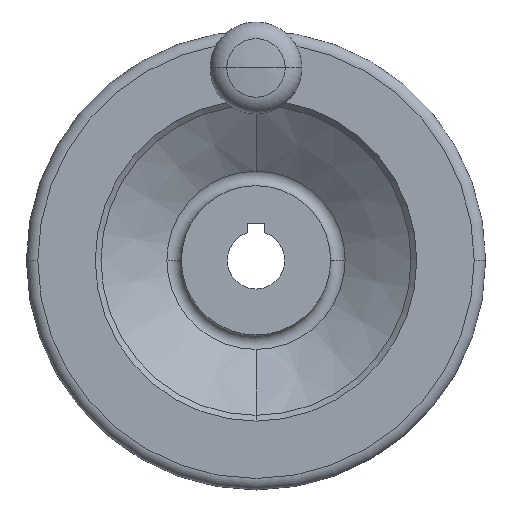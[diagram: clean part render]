
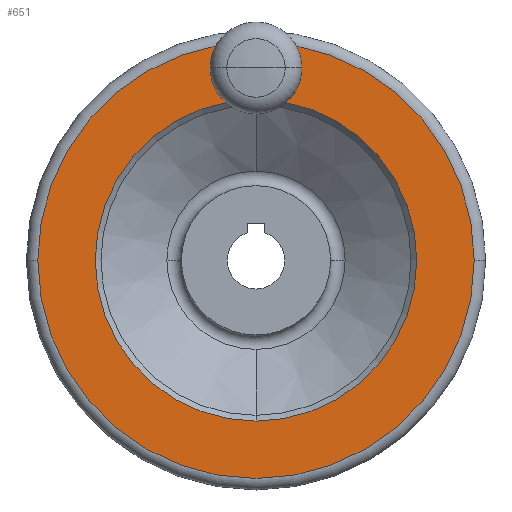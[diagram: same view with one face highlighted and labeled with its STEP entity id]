
A CAD part, left-side view. The second image highlights one B-rep face of the part: STEP entity #651.
In plain terms, the highlighted planar face has unit normal (-1, 0, 0).
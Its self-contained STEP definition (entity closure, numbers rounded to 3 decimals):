
#2 = VERTEX_POINT ( 'NONE', #2052 ) ;
#30 = CARTESIAN_POINT ( 'NONE',  ( -70., 25., -2. ) ) ;
#38 = EDGE_CURVE ( 'NONE', #1236, #1340, #2041, .T. ) ;
#39 = ORIENTED_EDGE ( 'NONE', *, *, #2069, .T. ) ;
#72 = ORIENTED_EDGE ( 'NONE', *, *, #38, .T. ) ;
#93 = DIRECTION ( 'NONE',  ( 0., -1., 0. ) ) ;
#104 = AXIS2_PLACEMENT_3D ( 'NONE', #30, #1046, #1055 ) ;
#134 = CARTESIAN_POINT ( 'NONE',  ( -70., 28., 31.5 ) ) ;
#137 = ORIENTED_EDGE ( 'NONE', *, *, #431, .F. ) ;
#141 = DIRECTION ( 'NONE',  ( 0., 0., 1. ) ) ;
#164 = PLANE ( 'NONE',  #1296 ) ;
#167 = CARTESIAN_POINT ( 'NONE',  ( -70., 25., 31.5 ) ) ;
#244 = EDGE_CURVE ( 'NONE', #2, #258, #1604, .T. ) ;
#258 = VERTEX_POINT ( 'NONE', #545 ) ;
#346 = DIRECTION ( 'NONE',  ( -1., 0., 0. ) ) ;
#431 = EDGE_CURVE ( 'NONE', #258, #2, #1587, .T. ) ;
#487 = FACE_BOUND ( 'NONE', #1030, .T. ) ;
#499 = FACE_BOUND ( 'NONE', #1774, .T. ) ;
#545 = CARTESIAN_POINT ( 'NONE',  ( -70., 25., -30. ) ) ;
#616 = VERTEX_POINT ( 'NONE', #1187 ) ;
#633 = CIRCLE ( 'NONE', #2160, 38. ) ;
#651 = ADVANCED_FACE ( 'NONE', ( #487, #499, #1857 ), #164, .T. ) ;
#792 = DIRECTION ( 'NONE',  ( 1., 0., 0. ) ) ;
#868 = AXIS2_PLACEMENT_3D ( 'NONE', #167, #1625, #93 ) ;
#952 = CARTESIAN_POINT ( 'NONE',  ( -70., 22., 31.5 ) ) ;
#1005 = CARTESIAN_POINT ( 'NONE',  ( -70., 25., -2. ) ) ;
#1008 = CARTESIAN_POINT ( 'NONE',  ( -70., -13., -2. ) ) ;
#1030 = EDGE_LOOP ( 'NONE', ( #137, #1945 ) ) ;
#1046 = DIRECTION ( 'NONE',  ( -1., 0., 0. ) ) ;
#1055 = DIRECTION ( 'NONE',  ( 0., -1., 0. ) ) ;
#1064 = CARTESIAN_POINT ( 'NONE',  ( -70., 25., -2. ) ) ;
#1187 = CARTESIAN_POINT ( 'NONE',  ( -70., 63., -2. ) ) ;
#1205 = DIRECTION ( 'NONE',  ( -1., 0., 0. ) ) ;
#1236 = VERTEX_POINT ( 'NONE', #952 ) ;
#1248 = CIRCLE ( 'NONE', #1878, 3. ) ;
#1255 = DIRECTION ( 'NONE',  ( 0., -1., 0. ) ) ;
#1293 = DIRECTION ( 'NONE',  ( 0., -1., 0. ) ) ;
#1296 = AXIS2_PLACEMENT_3D ( 'NONE', #1693, #1205, #141 ) ;
#1340 = VERTEX_POINT ( 'NONE', #134 ) ;
#1345 = VERTEX_POINT ( 'NONE', #1008 ) ;
#1510 = DIRECTION ( 'NONE',  ( 0., -1., 0. ) ) ;
#1535 = ORIENTED_EDGE ( 'NONE', *, *, #1938, .T. ) ;
#1587 = CIRCLE ( 'NONE', #2142, 28. ) ;
#1604 = CIRCLE ( 'NONE', #1892, 28. ) ;
#1625 = DIRECTION ( 'NONE',  ( 1., 0., 0. ) ) ;
#1630 = CARTESIAN_POINT ( 'NONE',  ( -70., 25., 31.5 ) ) ;
#1648 = DIRECTION ( 'NONE',  ( -1., 0., 0. ) ) ;
#1677 = EDGE_LOOP ( 'NONE', ( #39, #1711 ) ) ;
#1693 = CARTESIAN_POINT ( 'NONE',  ( -70., 25., -30. ) ) ;
#1711 = ORIENTED_EDGE ( 'NONE', *, *, #1776, .T. ) ;
#1774 = EDGE_LOOP ( 'NONE', ( #72, #1535 ) ) ;
#1776 = EDGE_CURVE ( 'NONE', #616, #1345, #2022, .T. ) ;
#1819 = DIRECTION ( 'NONE',  ( 0., -1., 0. ) ) ;
#1857 = FACE_OUTER_BOUND ( 'NONE', #1677, .T. ) ;
#1878 = AXIS2_PLACEMENT_3D ( 'NONE', #1630, #792, #1293 ) ;
#1892 = AXIS2_PLACEMENT_3D ( 'NONE', #1064, #2082, #1255 ) ;
#1938 = EDGE_CURVE ( 'NONE', #1340, #1236, #1248, .T. ) ;
#1945 = ORIENTED_EDGE ( 'NONE', *, *, #244, .F. ) ;
#2022 = CIRCLE ( 'NONE', #104, 38. ) ;
#2041 = CIRCLE ( 'NONE', #868, 3. ) ;
#2052 = CARTESIAN_POINT ( 'NONE',  ( -70., 25., 26. ) ) ;
#2069 = EDGE_CURVE ( 'NONE', #1345, #616, #633, .T. ) ;
#2082 = DIRECTION ( 'NONE',  ( -1., 0., 0. ) ) ;
#2117 = CARTESIAN_POINT ( 'NONE',  ( -70., 25., -2. ) ) ;
#2142 = AXIS2_PLACEMENT_3D ( 'NONE', #2117, #1648, #1819 ) ;
#2160 = AXIS2_PLACEMENT_3D ( 'NONE', #1005, #346, #1510 ) ;
